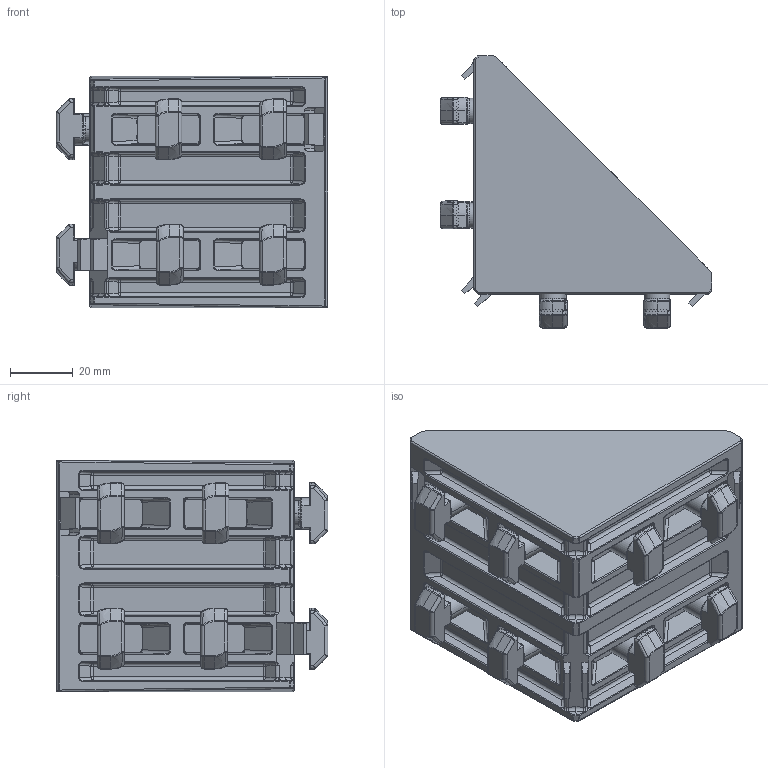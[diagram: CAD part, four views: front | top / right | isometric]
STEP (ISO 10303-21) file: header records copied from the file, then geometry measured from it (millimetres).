
FILE_DESCRIPTION (( 'STEP AP203' ), '1' );
FILE_NAME ('093w806n10s01.STEP', '2014-02-11T14:37:29', ( 'Fath' ), ( 'Hewlett-Packard Company' ), 'SwSTEP 2.0', 'SolidWorks 2014', '' );
FILE_SCHEMA (( 'CONFIG_CONTROL_DESIGN' ));
Products named in the file (1): 093w806n10s01
Bounding box: 86.8 x 86.8 x 74 mm (x, y, z)
Volume: 111804.6 mm3; surface area: 58514 mm2
Topology: 19 solids, 19 shells, 2179 faces, 5570 edges, 3348 vertices
Faces by surface type: cylinder 789, plane 701, bspline 566, cone 123
Entity records: 81869 total; most frequent: CARTESIAN_POINT 35382, ORIENTED_EDGE 10932, DIRECTION 8177, EDGE_CURVE 5466, VERTEX_POINT 3348, AXIS2_PLACEMENT_3D 2946, VECTOR 2285, LINE 2285
